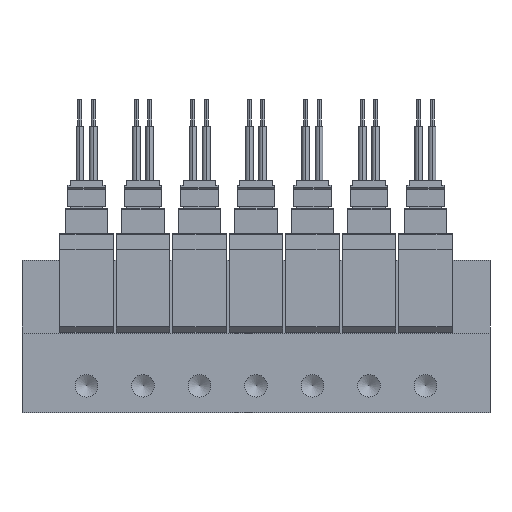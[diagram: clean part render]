
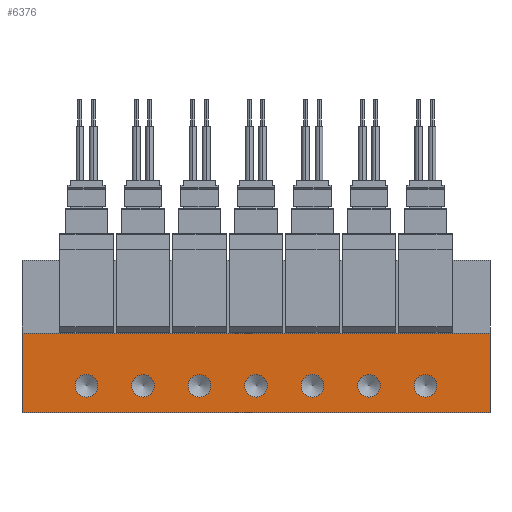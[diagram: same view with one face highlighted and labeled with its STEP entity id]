
A CAD part, front view. The second image highlights one B-rep face of the part: STEP entity #6376.
In plain terms, the highlighted planar face has unit normal (0, -1, 0).
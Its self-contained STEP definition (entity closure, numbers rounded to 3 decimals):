
#6376=ADVANCED_FACE('',(#9956,#9957,#9958,#9959,#9960,#9961,#9962,#9963),#9964,.F.);
#9956=FACE_BOUND('',#17224,.T.);
#9957=FACE_BOUND('',#17225,.T.);
#9958=FACE_BOUND('',#17226,.T.);
#9959=FACE_BOUND('',#17227,.T.);
#9960=FACE_BOUND('',#17228,.T.);
#9961=FACE_BOUND('',#17229,.T.);
#9962=FACE_BOUND('',#17230,.T.);
#9963=FACE_OUTER_BOUND('',#17231,.T.);
#9964=PLANE('',#17232);
#17224=EDGE_LOOP('',(#26676));
#17225=EDGE_LOOP('',(#26677));
#17226=EDGE_LOOP('',(#26678));
#17227=EDGE_LOOP('',(#26679));
#17228=EDGE_LOOP('',(#26680));
#17229=EDGE_LOOP('',(#26681));
#17230=EDGE_LOOP('',(#26682));
#17231=EDGE_LOOP('',(#26683,#26684,#26685,#26686));
#17232=AXIS2_PLACEMENT_3D('',#26687,#26688,#26689);
#26676=ORIENTED_EDGE('',*,*,#55209,.F.);
#26677=ORIENTED_EDGE('',*,*,#55235,.F.);
#26678=ORIENTED_EDGE('',*,*,#55236,.F.);
#26679=ORIENTED_EDGE('',*,*,#55237,.F.);
#26680=ORIENTED_EDGE('',*,*,#55238,.F.);
#26681=ORIENTED_EDGE('',*,*,#55239,.F.);
#26682=ORIENTED_EDGE('',*,*,#55240,.F.);
#26683=ORIENTED_EDGE('',*,*,#55241,.F.);
#26684=ORIENTED_EDGE('',*,*,#55242,.F.);
#26685=ORIENTED_EDGE('',*,*,#55243,.T.);
#26686=ORIENTED_EDGE('',*,*,#55233,.T.);
#26687=CARTESIAN_POINT('',(-87.0,0.,14.8));
#26688=DIRECTION('',(0.0,1.0,0.));
#26689=DIRECTION('',(0.0,0.,1.0));
#55209=EDGE_CURVE('',#64585,#64585,#64586,.T.);
#55233=EDGE_CURVE('',#64630,#64628,#64631,.T.);
#55235=EDGE_CURVE('',#64633,#64633,#64634,.T.);
#55236=EDGE_CURVE('',#64635,#64635,#64636,.T.);
#55237=EDGE_CURVE('',#64637,#64637,#64638,.T.);
#55238=EDGE_CURVE('',#64639,#64639,#64640,.T.);
#55239=EDGE_CURVE('',#64641,#64641,#64642,.T.);
#55240=EDGE_CURVE('',#64643,#64643,#64644,.T.);
#55241=EDGE_CURVE('',#64645,#64628,#64646,.T.);
#55242=EDGE_CURVE('',#64647,#64645,#64648,.T.);
#55243=EDGE_CURVE('',#64647,#64630,#64649,.T.);
#64585=VERTEX_POINT('',#80497);
#64586=CIRCLE('',#80498,2.1);
#64628=VERTEX_POINT('',#80553);
#64630=VERTEX_POINT('',#80556);
#64631=LINE('',#80557,#80558);
#64633=VERTEX_POINT('',#80561);
#64634=CIRCLE('',#80562,2.1);
#64635=VERTEX_POINT('',#80563);
#64636=CIRCLE('',#80564,2.1);
#64637=VERTEX_POINT('',#80565);
#64638=CIRCLE('',#80566,2.1);
#64639=VERTEX_POINT('',#80567);
#64640=CIRCLE('',#80568,2.1);
#64641=VERTEX_POINT('',#80569);
#64642=CIRCLE('',#80570,2.1);
#64643=VERTEX_POINT('',#80571);
#64644=CIRCLE('',#80572,2.1);
#64645=VERTEX_POINT('',#80573);
#64646=LINE('',#80574,#80575);
#64647=VERTEX_POINT('',#80576);
#64648=LINE('',#80577,#80578);
#64649=LINE('',#80579,#80580);
#80497=CARTESIAN_POINT('',(-75.0,0.,2.9));
#80498=AXIS2_PLACEMENT_3D('',#102788,#102789,#102790);
#80553=CARTESIAN_POINT('',(0.0,0.0,0.0));
#80556=CARTESIAN_POINT('',(-87.0,0.0,0.0));
#80557=CARTESIAN_POINT('',(-87.0,0.0,0.0));
#80558=VECTOR('',#102832,1.0);
#80561=CARTESIAN_POINT('',(-64.5,0.,2.9));
#80562=AXIS2_PLACEMENT_3D('',#102834,#102835,#102836);
#80563=CARTESIAN_POINT('',(-54.0,0.,2.9));
#80564=AXIS2_PLACEMENT_3D('',#102837,#102838,#102839);
#80565=CARTESIAN_POINT('',(-43.5,0.,2.9));
#80566=AXIS2_PLACEMENT_3D('',#102840,#102841,#102842);
#80567=CARTESIAN_POINT('',(-33.0,0.,2.9));
#80568=AXIS2_PLACEMENT_3D('',#102843,#102844,#102845);
#80569=CARTESIAN_POINT('',(-22.5,0.,2.9));
#80570=AXIS2_PLACEMENT_3D('',#102846,#102847,#102848);
#80571=CARTESIAN_POINT('',(-12.0,0.,2.9));
#80572=AXIS2_PLACEMENT_3D('',#102849,#102850,#102851);
#80573=CARTESIAN_POINT('',(0.0,0.,14.8));
#80574=CARTESIAN_POINT('',(0.0,0.,14.8));
#80575=VECTOR('',#102852,1.0);
#80576=CARTESIAN_POINT('',(-87.0,0.,14.8));
#80577=CARTESIAN_POINT('',(-87.0,0.,14.8));
#80578=VECTOR('',#102853,1.0);
#80579=CARTESIAN_POINT('',(-87.0,0.,14.8));
#80580=VECTOR('',#102854,1.0);
#102788=CARTESIAN_POINT('',(-75.0,0.0,5.0));
#102789=DIRECTION('',(0.0,-1.0,0.));
#102790=DIRECTION('',(0.0,0.,-1.0));
#102832=DIRECTION('',(1.0,0.0,0.0));
#102834=CARTESIAN_POINT('',(-64.5,0.0,5.0));
#102835=DIRECTION('',(0.0,-1.0,0.));
#102836=DIRECTION('',(0.0,0.,-1.0));
#102837=CARTESIAN_POINT('',(-54.0,0.0,5.0));
#102838=DIRECTION('',(0.0,-1.0,0.));
#102839=DIRECTION('',(0.0,0.,-1.0));
#102840=CARTESIAN_POINT('',(-43.5,0.0,5.0));
#102841=DIRECTION('',(0.0,-1.0,0.));
#102842=DIRECTION('',(0.0,0.,-1.0));
#102843=CARTESIAN_POINT('',(-33.0,0.0,5.0));
#102844=DIRECTION('',(0.0,-1.0,0.));
#102845=DIRECTION('',(0.0,0.,-1.0));
#102846=CARTESIAN_POINT('',(-22.5,0.0,5.0));
#102847=DIRECTION('',(0.0,-1.0,0.));
#102848=DIRECTION('',(0.0,0.,-1.0));
#102849=CARTESIAN_POINT('',(-12.0,0.0,5.0));
#102850=DIRECTION('',(0.0,-1.0,0.));
#102851=DIRECTION('',(0.0,0.,-1.0));
#102852=DIRECTION('',(0.0,0.,-1.0));
#102853=DIRECTION('',(1.0,0.0,0.0));
#102854=DIRECTION('',(0.0,0.,-1.0));
